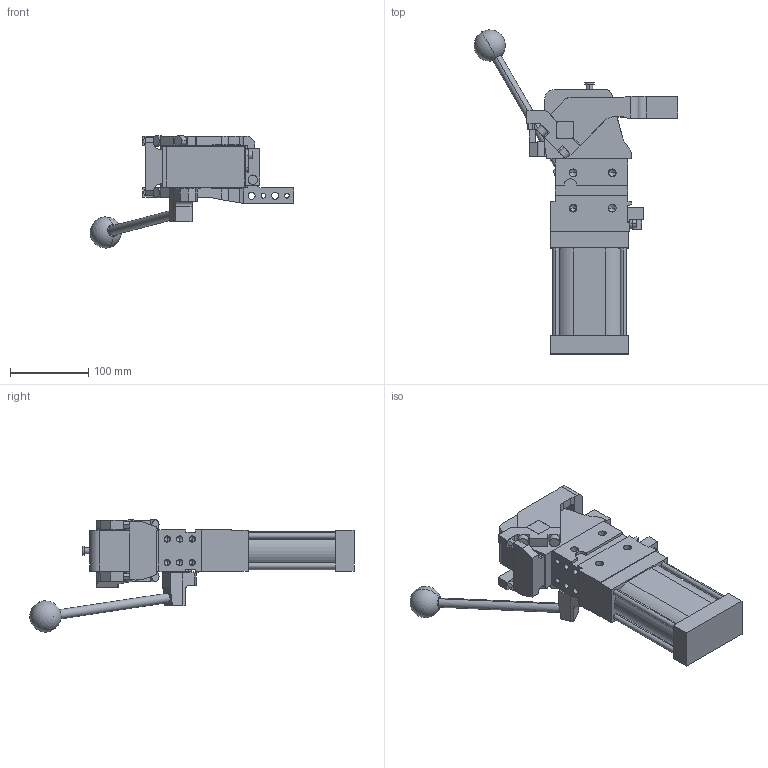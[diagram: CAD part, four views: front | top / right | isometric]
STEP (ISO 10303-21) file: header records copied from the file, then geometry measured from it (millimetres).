
FILE_DESCRIPTION (( 'STEP AP214' ), '1' );
FILE_NAME ('cplm63lbtv1dsi1g_16.STEP', '2023-01-26T14:45:41', ( '' ), ( '' ), 'SwSTEP 2.0', 'SolidWorks 2022', '' );
FILE_SCHEMA (( 'AUTOMOTIVE_DESIGN' ));
Length unit declared in the file: millimetre
Products named in the file (5): blocchetto_VEP_0; meccanica_cplm_63_tassello_esterno; leva_v1ds_cpl63t; comando_manuale_cplm_63; cplm63lbtv1dsi1g_16
Assembly tree (4 placements, depth 2):
  cplm63lbtv1dsi1g_16
    meccanica_cplm_63_tassello_esterno
    blocchetto_VEP_0
    leva_v1ds_cpl63t
    comando_manuale_cplm_63
Bounding box: 260.54 x 414.46 x 143.5 mm (x, y, z)
Volume: 1909111.5 mm3; surface area: 216504 mm2
Topology: 4 solids, 4 shells, 467 faces, 1233 edges, 769 vertices
Faces by surface type: plane 248, cylinder 167, cone 50, sphere 2
Entity records: 15710 total; most frequent: CARTESIAN_POINT 2524, DIRECTION 2488, ORIENTED_EDGE 2364, EDGE_CURVE 1182, AXIS2_PLACEMENT_3D 844, LINE 800, VECTOR 800, VERTEX_POINT 766
